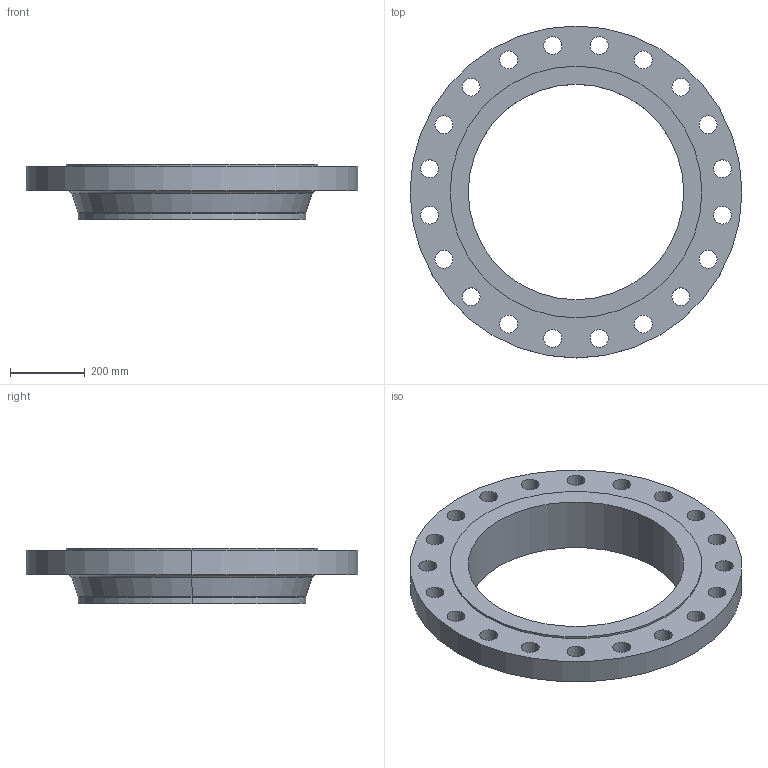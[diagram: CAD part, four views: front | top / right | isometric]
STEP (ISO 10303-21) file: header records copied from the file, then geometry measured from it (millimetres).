
FILE_DESCRIPTION (( 'STEP AP214' ), '1' );
FILE_NAME ('PN40 DN600 Type 11 - Type E Face.STEP', '2018-12-29T04:43:01', ( '' ), ( '' ), 'SwSTEP 2.0', 'SolidWorks 2019', '' );
FILE_SCHEMA (( 'AUTOMOTIVE_DESIGN' ));
Length unit declared in the file: millimetre
Products named in the file (1): PN40 DN600 Type 11 - Type E Face
Bounding box: 890 x 890 x 150 mm (x, y, z)
Volume: 25524975.6 mm3; surface area: 1433747.4 mm2
Topology: 1 solids, 1 shells, 58 faces, 156 edges, 102 vertices
Faces by surface type: cylinder 48, torus 4, plane 4, cone 2
Entity records: 1996 total; most frequent: DIRECTION 380, CARTESIAN_POINT 317, ORIENTED_EDGE 312, AXIS2_PLACEMENT_3D 165, EDGE_CURVE 156, CIRCLE 106, EDGE_LOOP 102, VERTEX_POINT 102
